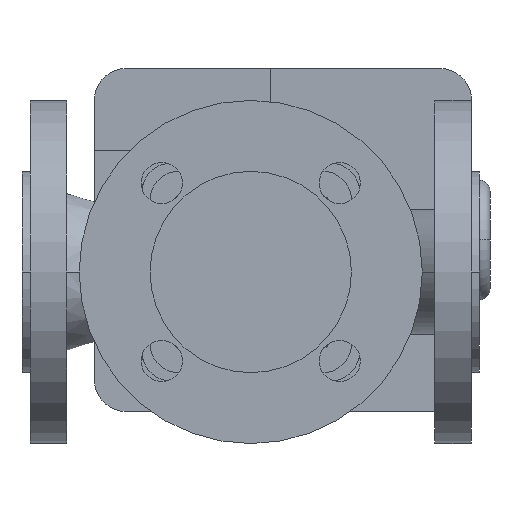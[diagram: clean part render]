
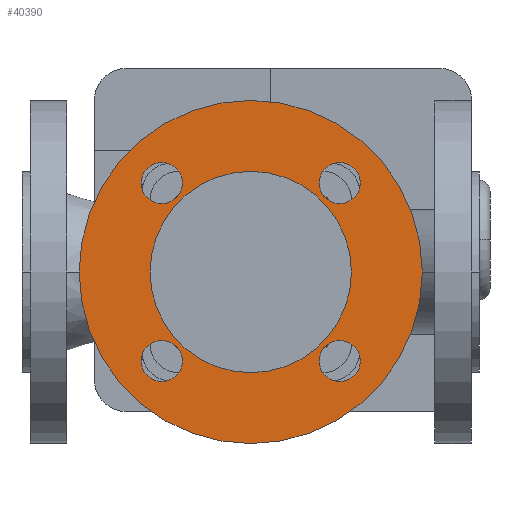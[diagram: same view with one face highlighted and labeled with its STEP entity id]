
A CAD part, front view. The second image highlights one B-rep face of the part: STEP entity #40390.
In plain terms, the highlighted planar face has unit normal (0, -1, 0).
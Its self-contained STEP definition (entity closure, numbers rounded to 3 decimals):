
#5170=CARTESIAN_POINT('',(56.,-86.5,0.));
#5180=VERTEX_POINT('',#5170);
#5360=CARTESIAN_POINT('',(144.,-86.5,0.));
#5370=VERTEX_POINT('',#5360);
#5400=CARTESIAN_POINT('',(100.,-86.5,0.));
#5410=DIRECTION('',(0.,-1.,0.));
#5420=DIRECTION('',(1.,0.,0.));
#5430=AXIS2_PLACEMENT_3D('',#5400,#5410,#5420);
#5440=CIRCLE('',#5430,44.);
#5450=EDGE_CURVE('',#5180,#5370,#5440,.T.);
#5610=CARTESIAN_POINT('',(175.,-86.5,0.));
#5620=VERTEX_POINT('',#5610);
#5780=CARTESIAN_POINT('',(25.,-86.5,0.));
#5790=VERTEX_POINT('',#5780);
#5820=CARTESIAN_POINT('',(100.,-86.5,0.));
#5830=DIRECTION('',(0.,1.,0.));
#5840=DIRECTION('',(1.,0.,0.));
#5850=AXIS2_PLACEMENT_3D('',#5820,#5830,#5840);
#5860=CIRCLE('',#5850,75.);
#5870=EDGE_CURVE('',#5620,#5790,#5860,.T.);
#6030=CARTESIAN_POINT('',(147.891,-86.5,-38.891));
#6040=VERTEX_POINT('',#6030);
#6070=CARTESIAN_POINT('',(138.891,-86.5,-38.891));
#6080=DIRECTION('',(0.,1.,0.));
#6090=DIRECTION('',(1.,0.,0.));
#6100=AXIS2_PLACEMENT_3D('',#6070,#6080,#6090);
#6110=CIRCLE('',#6100,9.);
#6120=CARTESIAN_POINT('',(129.891,-86.5,-38.891));
#6130=VERTEX_POINT('',#6120);
#6140=EDGE_CURVE('',#6040,#6130,#6110,.T.);
#6450=CARTESIAN_POINT('',(129.891,-86.5,38.891));
#6460=VERTEX_POINT('',#6450);
#6620=CARTESIAN_POINT('',(147.891,-86.5,38.891));
#6630=VERTEX_POINT('',#6620);
#6660=CARTESIAN_POINT('',(138.891,-86.5,38.891));
#6670=DIRECTION('',(0.,1.,0.));
#6680=DIRECTION('',(1.,0.,0.));
#6690=AXIS2_PLACEMENT_3D('',#6660,#6670,#6680);
#6700=CIRCLE('',#6690,9.);
#6710=EDGE_CURVE('',#6630,#6460,#6700,.T.);
#6870=CARTESIAN_POINT('',(70.109,-86.5,-38.891));
#6880=VERTEX_POINT('',#6870);
#6910=CARTESIAN_POINT('',(61.109,-86.5,-38.891));
#6920=DIRECTION('',(0.,1.,0.));
#6930=DIRECTION('',(1.,0.,0.));
#6940=AXIS2_PLACEMENT_3D('',#6910,#6920,#6930);
#6950=CIRCLE('',#6940,9.);
#6960=CARTESIAN_POINT('',(52.109,-86.5,-38.891));
#6970=VERTEX_POINT('',#6960);
#6980=EDGE_CURVE('',#6880,#6970,#6950,.T.);
#7290=CARTESIAN_POINT('',(70.109,-86.5,38.891));
#7300=VERTEX_POINT('',#7290);
#7330=CARTESIAN_POINT('',(61.109,-86.5,38.891));
#7340=DIRECTION('',(0.,1.,0.));
#7350=DIRECTION('',(1.,0.,0.));
#7360=AXIS2_PLACEMENT_3D('',#7330,#7340,#7350);
#7370=CIRCLE('',#7360,9.);
#7380=CARTESIAN_POINT('',(52.109,-86.5,38.891));
#7390=VERTEX_POINT('',#7380);
#7400=EDGE_CURVE('',#7300,#7390,#7370,.T.);
#40040=CARTESIAN_POINT('',(100.,-86.5,0.));
#40050=DIRECTION('',(0.,1.,0.));
#40060=DIRECTION('',(0.,0.,1.));
#40070=AXIS2_PLACEMENT_3D('',#40040,#40050,#40060);
#40080=PLANE('',#40070);
#40090=ORIENTED_EDGE('',*,*,#7400,.T.);
#40100=EDGE_CURVE('',#7390,#7300,#7370,.T.);
#40110=ORIENTED_EDGE('',*,*,#40100,.T.);
#40120=EDGE_LOOP('',(#40110,#40090));
#40130=FACE_BOUND('',#40120,.T.);
#40140=EDGE_CURVE('',#6970,#6880,#6950,.T.);
#40150=ORIENTED_EDGE('',*,*,#40140,.T.);
#40160=ORIENTED_EDGE('',*,*,#6980,.T.);
#40170=EDGE_LOOP('',(#40160,#40150));
#40180=FACE_BOUND('',#40170,.T.);
#40190=EDGE_CURVE('',#6460,#6630,#6700,.T.);
#40200=ORIENTED_EDGE('',*,*,#40190,.T.);
#40210=ORIENTED_EDGE('',*,*,#6710,.T.);
#40220=EDGE_LOOP('',(#40210,#40200));
#40230=FACE_BOUND('',#40220,.T.);
#40240=ORIENTED_EDGE('',*,*,#6140,.T.);
#40250=EDGE_CURVE('',#6130,#6040,#6110,.T.);
#40260=ORIENTED_EDGE('',*,*,#40250,.T.);
#40270=EDGE_LOOP('',(#40260,#40240));
#40280=FACE_BOUND('',#40270,.T.);
#40290=EDGE_CURVE('',#5790,#5620,#5860,.T.);
#40300=ORIENTED_EDGE('',*,*,#40290,.F.);
#40310=ORIENTED_EDGE('',*,*,#5870,.F.);
#40320=EDGE_LOOP('',(#40310,#40300));
#40330=FACE_OUTER_BOUND('',#40320,.T.);
#40340=EDGE_CURVE('',#5370,#5180,#5440,.T.);
#40350=ORIENTED_EDGE('',*,*,#40340,.F.);
#40360=ORIENTED_EDGE('',*,*,#5450,.F.);
#40370=EDGE_LOOP('',(#40360,#40350));
#40380=FACE_BOUND('',#40370,.T.);
#40390=ADVANCED_FACE('',(#40130,#40180,#40230,#40280,#40330,#40380),
#40080,.F.);
